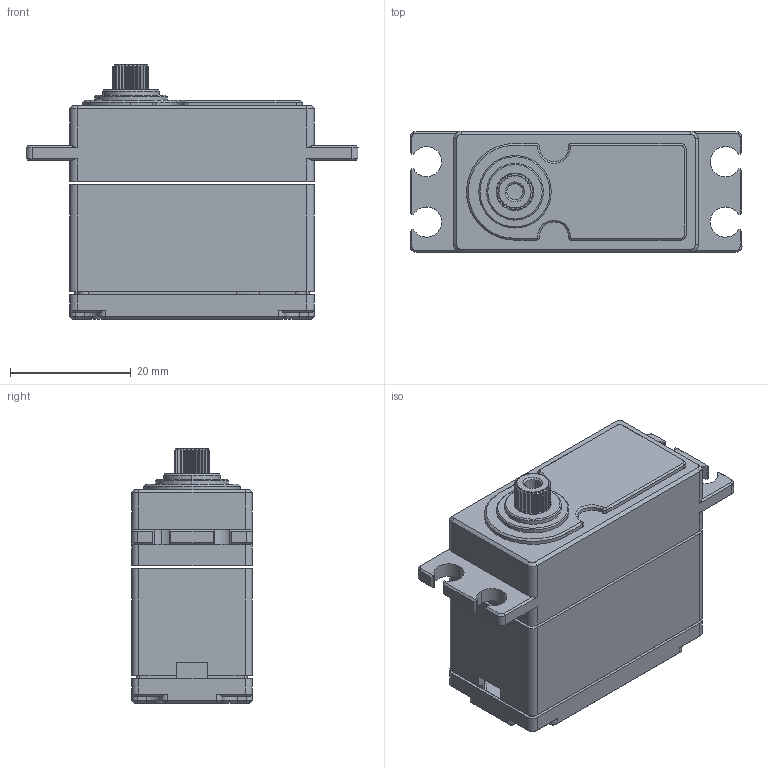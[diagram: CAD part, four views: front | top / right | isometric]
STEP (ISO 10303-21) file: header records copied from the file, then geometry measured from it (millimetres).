
FILE_DESCRIPTION (( 'STEP AP214' ), '1' );
FILE_NAME ('KST-BLS825_DM.STEP', '2021-07-02T07:41:25', ( '微软用户' ), ( '微软中国' ), 'SwSTEP 2.0', 'SolidWorks 2016', '' );
FILE_SCHEMA (( 'AUTOMOTIVE_DESIGN' ));
Length unit declared in the file: millimetre
Products named in the file (2): KST-BLS825_DM
Bounding box: 55 x 20 x 42.2 mm (x, y, z)
Surface area: 9608.3 mm2 (no closed solid volume)
Topology: 0 solids, 7 shells, 417 faces, 1213 edges, 810 vertices
Faces by surface type: plane 185, cylinder 154, cone 76, bspline 2
Entity records: 18460 total; most frequent: CARTESIAN_POINT 2718, DIRECTION 2393, ORIENTED_EDGE 2254, EDGE_CURVE 1213, AXIS2_PLACEMENT_3D 850, VERTEX_POINT 810, LINE 693, VECTOR 693
